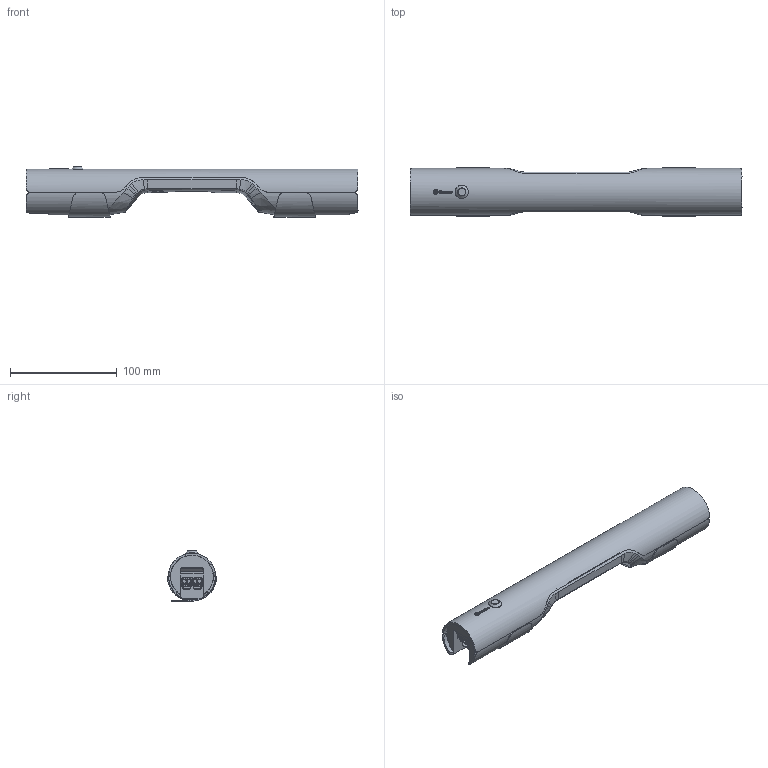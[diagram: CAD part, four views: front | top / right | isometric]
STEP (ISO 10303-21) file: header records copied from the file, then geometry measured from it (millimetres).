
FILE_DESCRIPTION(/* description */ ('Unknown'),/* implementation_level */ '2;1');
FILE_NAME(/* name */ '7L.4X.0.Y.2100',/* time_stamp */ '2019-11-04T09:57:47+01:00',/* author */ ('Unknown'),/* organization */ ('Unknown'),/* preprocessor_version */ 'ST-DEVELOPER v16.7',/* originating_system */ 'DEX',/* authorisation */ $);
FILE_SCHEMA (('AUTOMOTIVE_DESIGN {1 0 10303 214 3 1 1}'));
Products named in the file (1): 7L.4X.0.Y.2100-Pir Morsetto - pelle x catalogo new
Bounding box: 310.57 x 46 x 47.03 mm (x, y, z)
Surface area: 72071.9 mm2 (no closed solid volume)
Topology: 0 solids, 38 shells, 1573 faces, 5697 edges, 4169 vertices
Faces by surface type: plane 1166, bspline 197, cylinder 180, torus 21, cone 6, sphere 3
Full cylindrical faces by diameter (mm): 1.75 x2, 3.3 x2, 4 x2, 4.2 x2, 4.25 x2, 4.263 x1, 12.3 x1
Entity records: 72540 total; most frequent: CARTESIAN_POINT 25234, ORIENTED_EDGE 9138, DIRECTION 7190, EDGE_CURVE 5673, VERTEX_POINT 4167, LINE 3638, VECTOR 3638, AXIS2_PLACEMENT_3D 1776
